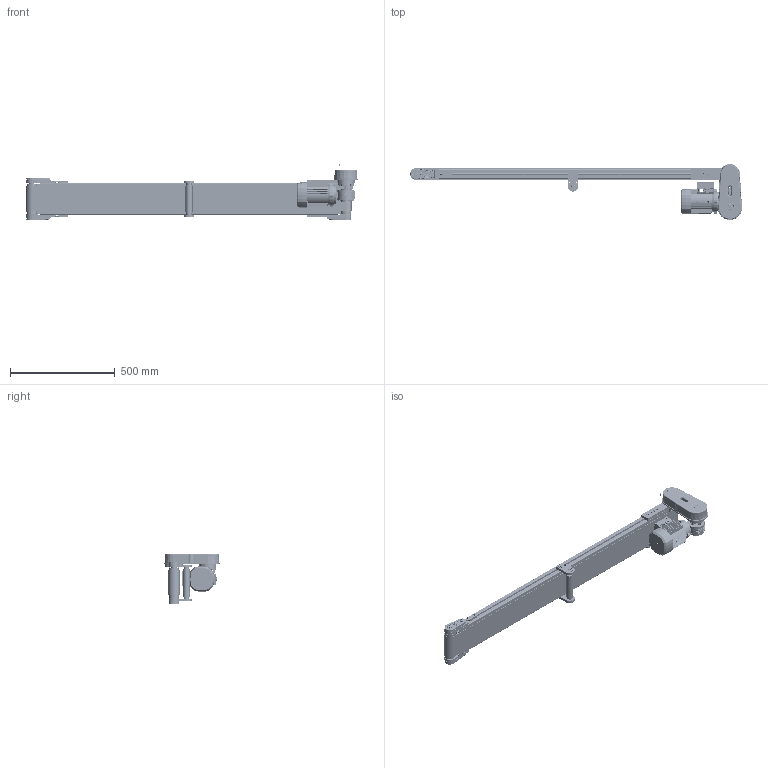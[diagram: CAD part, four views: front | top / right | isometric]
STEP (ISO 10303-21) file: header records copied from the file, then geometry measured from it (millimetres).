
FILE_DESCRIPTION (( 'STEP AP203' ), '1' );
FILE_NAME ('NASTRO_RETTILINEO_TAPPETO.step', '2026-04-27T07:28:37', ( 'Utente Windows' ), ( '' ), 'SwSTEP 2.0', 'SolidWorks 2024', '' );
FILE_SCHEMA (( 'CONFIG_CONTROL_DESIGN' ));
Length unit declared in the file: millimetre
Products named in the file (51): VITI TE UNI 5739_M8x20 UNI 5739; BLOCCO_RINVIO_50_CORTA; 084.302.000 DADI ALUSIC 13x13-1_084.302.004; CHIAVETTE_A 8x7x25 UNI 6604-69; TELAIO_50_STANDARD_Default<A macchina>; 084.303.001; VITI TSEI UNI 5933_M4x12 UNI 5933; 084.802.034_084.802.034; VITI TE UNI 5739_M6x16 UNI 5739; 084.809.004; NASTRO_RETTILINEO_TAPPETO; 084.802.008; BLOCCO_TRAINO_50_RINVIATO_CINGHIA_30_DX_MOTORE A DESTRA; 084.802.021; 084.832.001; TAPPETO_STANDARD; CHIAVETTE_A 5x5x50 UNI 6604-69; VITE_RONDELLA_M8X20; RONDELLE FASCIA LARGA UNI 6593_5.4x20 UNI 6593; 084.802.071; 084.813.001; 084.813.006; VITI TCEI UNI 5931_M4x10 UNI 5931; CHIAVETTE_A 5x5x20 UNI 6604-69; 084.821.002; VITI TSEI UNI 5933 INOX_0412UNI5933A2; 084.807.001_084.807.001; 084.802.014; VITI TSEI UNI 5933_M5x12 UNI 5933; LAMIERA_STANDARD; 084.301.000 VITI ALUSIC_084.301.003; 084.810.001; 084.821.003; RULLO_REGGITAPPETO; BLOCCO_PERNO_50_RINVIATO; 084.802.028; BLOCCO_PERNO_50_RINVIO; CH03F_DX; 084.807.004_084.807.004; 084.811.004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
Assembly tree (103 placements, depth 3):
  NASTRO_RETTILINEO_TAPPETO
    TAPPETO_STANDARD
    TELAIO_50_STANDARD_Default<A macchina>
    LAMIERA_STANDARD
    RULLO_50_Default<A macchina>  x2
    BLOCCO_PERNO_50_RINVIATO
      084.810.001
      084.813.001
      CHIAVETTE_A 8x7x25 UNI 6604-69
      CHIAVETTE_A 5x5x20 UNI 6604-69
    BLOCCO_TRAINO_50_RINVIATO_CINGHIA_30_DX_MOTORE A DESTRA
      084.802.034_084.802.034
      084.807.001_084.807.001
      084.809.004
      084.813.006
      084.802.021
      084.809.001
      084.301.000 VITI ALUSIC_084.301.003  x2
      084.302.000 DADI ALUSIC 13x13-1_084.302.004  x2
      CHIAVETTE_A 5x5x50 UNI 6604-69
      084.821.002  x2
      084.821.003
      RONDELLE FASCIA LARGA UNI 6593_5.4x20 UNI 6593
      084.301.000 VITI ALUSIC_084.301.009
      VITI TE UNI 5739_M6x16 UNI 5739  x8
      VITI TE UNI 5739_M8x20 UNI 5739  x4
      CHIAVETTE_A 8x7x25 UNI 6604-69
      084.832.001
    BLOCCO_PERNO_50_RINVIO  x3
      084.811.004
      084.810.001
    BLOCCO_TRAINO_50_STANDARD
      084.807.002_084.807.002
      084.802.017_084.802.017
      084.301.000 VITI ALUSIC_084.301.003  x2
      084.302.000 DADI ALUSIC 13x13-1_084.302.004  x2
      VITI TSEI UNI 5933_M4x12 UNI 5933  x4
      084.802.071
      VITI TSEI UNI 5933 INOX_0412UNI5933A2  x2
    BLOCCO_RINVIO_50_CORTA  x2
      084.807.004_084.807.004
      084.802.017_084.802.017
      084.802.008
      084.301.000 VITI ALUSIC_084.301.003
      084.302.000 DADI ALUSIC 13x13_084.302.004
      VITI TCEI UNI 5931_M4x10 UNI 5931
      084.802.071
    VITE_RONDELLA_M8X20  x5
      084.303.001
      084.301.000 VITI ALUSIC_084.301.003
    VITE_DADO_M5X12  x8
      084.302.000 DADI ALUSIC 13x13-1_084.302.007
      VITI TSEI UNI 5933_M5x12 UNI 5933
    BLOCCO_REGGITAPPETO  x2
      084.301.000 VITI ALUSIC_084.301.003
      084.302.000 DADI ALUSIC 13x13-1_084.302.004
      084.802.017_084.802.017
      084.802.028
      084.802.014
      084.802.013-2
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Bounding box: 1584.75 x 267 x 270 mm (x, y, z)
Volume: 5619436.7 mm3; surface area: 4055189 mm2
Topology: 158 solids, 163 shells, 8014 faces, 20985 edges, 13470 vertices
Faces by surface type: plane 3609, cylinder 2402, cone 753, bspline 673, torus 506, sphere 71
Entity records: 187792 total; most frequent: CARTESIAN_POINT 65050, ORIENTED_EDGE 25464, DIRECTION 22971, EDGE_CURVE 12732, AXIS2_PLACEMENT_3D 8456, VERTEX_POINT 8217, LINE 6059, VECTOR 6059
